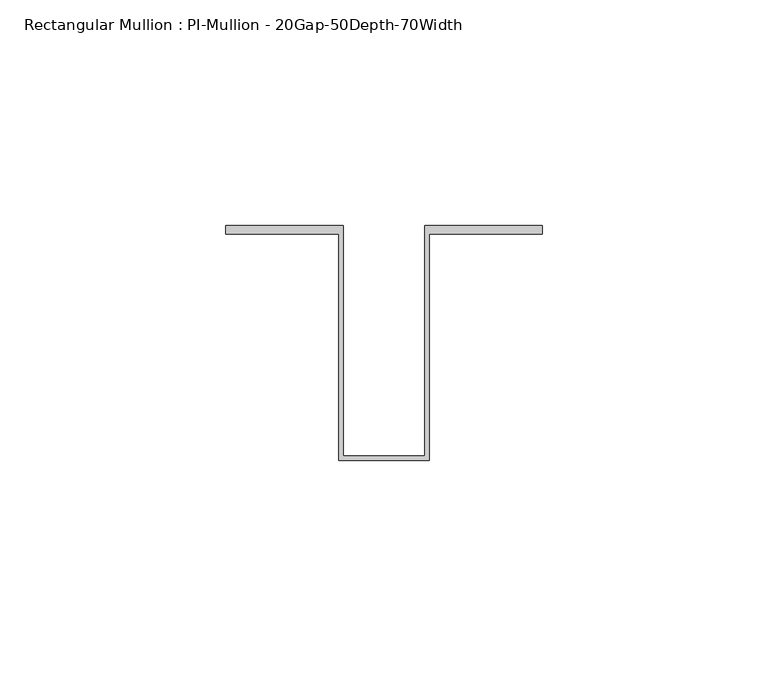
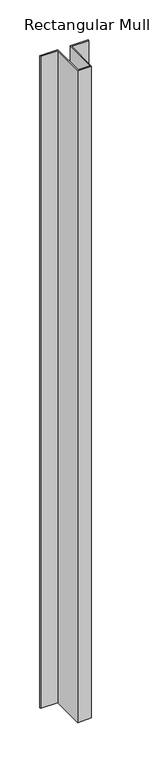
"""IFC4 building model written with IfcOpenShell, lengths in millimetres: member geometry, Rectangular Mullion : PI-Mullion - 20Gap-50Depth-70Width."""

from ifc_helpers import new_model, si_unit, frame, origin, place, context, project, spatial, polyline, outline, extrude, source, transform, mapped, element, save


def rectangular_mullion_pi_mullion_20gap_50depth_70width_811ff51a(model_context):
    return source(origin(), model_context, "Body", "SweptSolid", [
        extrude(outline(polyline([(10.0, 0.2), (10.0, -50.0), (-10.0, -50.0), (-10.0, 0.2), (-35.0, 0.2), (-35.0, 2.0), (-9.0, 2.0), (-9.0, -49.0), (9.0, -49.0), (9.0, 2.0), (35.0, 2.0), (35.0, 0.2), (10.0, 0.2)])), frame((0.0, 0.0, -1000.0), z_axis=(0.0, 0.0, 1.0), x_axis=(1.0, 0.0, 0.0)), (0.0, 0.0, 1.0), 1000.0),
    ])


if __name__ == "__main__":
    model = new_model("IFC4")
    model_context = context("Model", 3, world=origin())
    ifc_project = project(units=[si_unit("LENGTHUNIT", "METRE", prefix="MILLI")], contexts=[model_context])
    site = spatial("IfcSite", under=ifc_project)
    building = spatial("IfcBuilding", under=site)
    placement = place(None, origin())
    rectangular_mullion_pi_mullion_20gap_50depth_70width_shape = rectangular_mullion_pi_mullion_20gap_50depth_70width_811ff51a(model_context)
    element("IfcMember", 1, ObjectType="Rectangular Mullion : PI-Mullion - 20Gap-50Depth-70Width", at=placement, inside=building, context=model_context, shape_type="MappedRepresentation", body=[
        mapped(rectangular_mullion_pi_mullion_20gap_50depth_70width_shape, transform((0.0, 0.0, 0.0), x_axis=(1.0, 0.0, 0.0), y_axis=(0.0, 1.0, 0.0), z_axis=(0.0, 0.0, 1.0))),
    ])
    save(model, "model.ifc")
